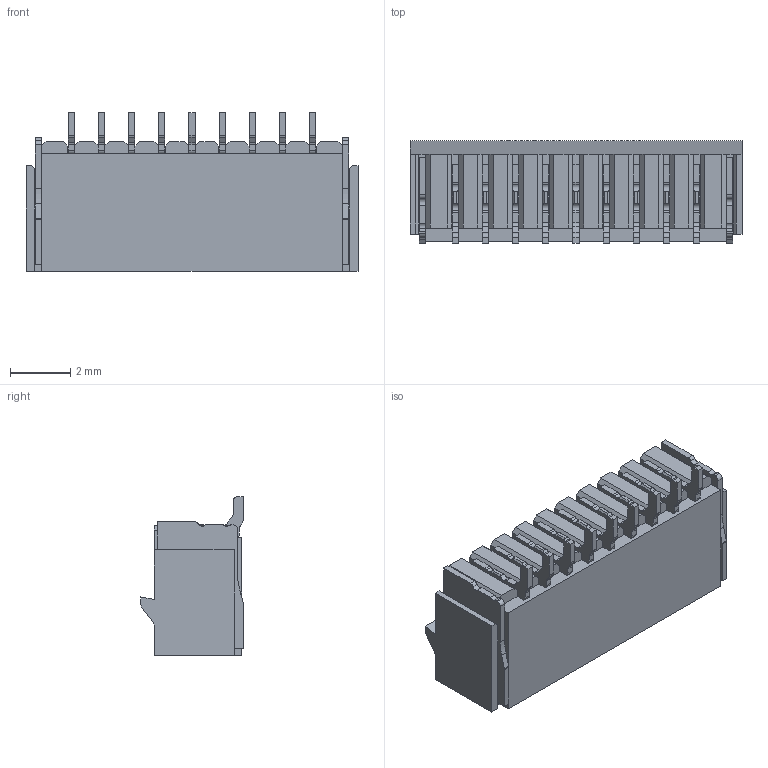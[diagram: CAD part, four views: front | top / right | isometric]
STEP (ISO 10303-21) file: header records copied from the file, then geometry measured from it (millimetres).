
FILE_DESCRIPTION(/* description */ (''),/* implementation_level */ '2;1');
FILE_NAME(/* name */ 'E:\工作文件\3D文件\温达\WT100EL(G1.0)\HC-G1.0-NAWT-X（卧贴-HCTL）\HC-G1.0-9AWT-X（卧贴-HCTL）.stp',/* time_stamp */ '2023-10-19T16:39:18+08:00',/* author */ ('admin'),/* organization */ (''),/* preprocessor_version */ 'ST-DEVELOPER v18.1',/* originating_system */ 'Autodesk Inventor 2021',/* authorisation */ '');
FILE_SCHEMA (('AUTOMOTIVE_DESIGN { 1 0 10303 214 3 1 1 }'));
Length unit declared in the file: millimetre
Products named in the file (1): HC-G1.0-6AWT-X（卧贴-HCTL）
Bounding box: 11 x 3.4 x 5.26 mm (x, y, z)
Volume: 74.7 mm3; surface area: 404 mm2
Topology: 1 solids, 1 shells, 826 faces, 2667 edges, 1758 vertices
Faces by surface type: plane 510, cylinder 316
Entity records: 29614 total; most frequent: ORIENTED_EDGE 5334, CARTESIAN_POINT 5252, DIRECTION 5015, EDGE_CURVE 2667, LINE 1973, VECTOR 1973, VERTEX_POINT 1758, AXIS2_PLACEMENT_3D 1521
